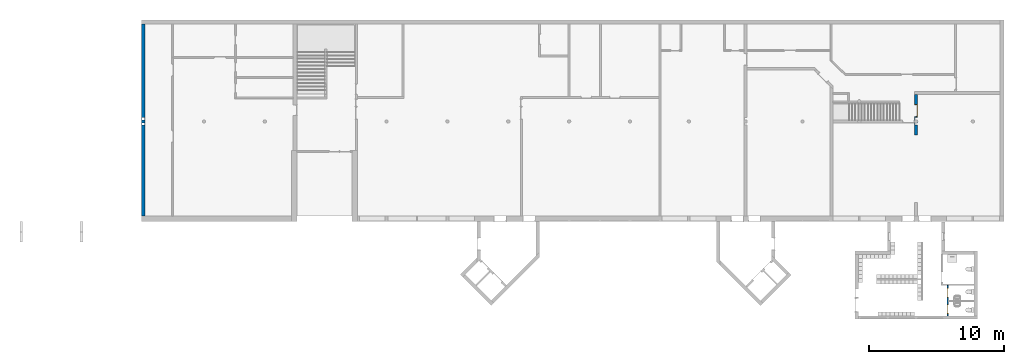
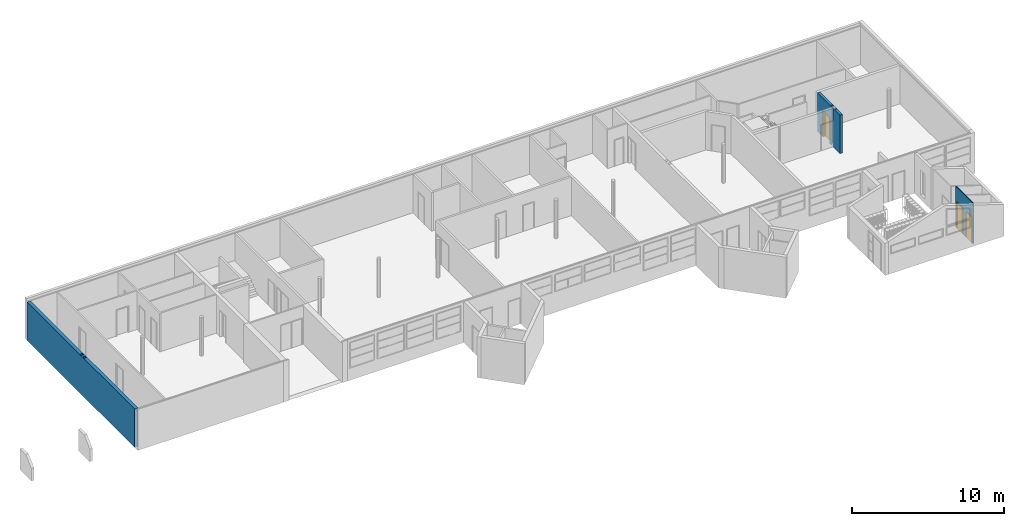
# One storey, part 13 of 25: 3 doors, 3 walls, 3 openings.
"""IFC2X3 building model written with IfcOpenShell, lengths in millimetres."""

from ifc_helpers import new_model, entity, si_unit, converted_unit, derived_unit, money_unit, direction, frame, origin_with_axes, place, context, subcontext, project, spatial, faceted_brep, source, transform, mapped, material, type_object, element, fill, save


model = new_model("IFC2X3")

# Units and contexts
model_context = context("Model", 3, precision=0.01, world=origin_with_axes(), true_north=direction((0.0, 1.0)))
body_context = subcontext(model_context, "Body", "Model", "MODEL_VIEW")
ifc_project = project(units=[si_unit("LENGTHUNIT", "METRE", prefix="MILLI"), si_unit("AREAUNIT", "SQUARE_METRE"), si_unit("VOLUMEUNIT", "CUBIC_METRE"), converted_unit("PLANEANGLEUNIT", "DEGREE", entity("IfcPlaneAngleMeasure", 0.0174532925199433), si_unit("PLANEANGLEUNIT", "RADIAN"), dimensions=[0, 0, 0, 0, 0, 0, 0]), money_unit("USD"), converted_unit("TIMEUNIT", "Year", entity("IfcTimeMeasure", 31557600.0), si_unit("TIMEUNIT", "SECOND"), dimensions=[0, 0, 1, 0, 0, 0, 0]), si_unit("MASSUNIT", "GRAM", prefix="KILO"), si_unit("THERMODYNAMICTEMPERATUREUNIT", "DEGREE_CELSIUS"), si_unit("LUMINOUSINTENSITYUNIT", "LUMEN"), si_unit("ENERGYUNIT", "JOULE", prefix="MEGA"), derived_unit("THERMALCONDUCTANCEUNIT", [(si_unit("POWERUNIT", "WATT"), 1), (si_unit("LENGTHUNIT", "METRE"), -1), (si_unit("THERMODYNAMICTEMPERATUREUNIT", "KELVIN"), -1)]), derived_unit("SPECIFICHEATCAPACITYUNIT", [(si_unit("ENERGYUNIT", "JOULE"), 1), (si_unit("MASSUNIT", "GRAM", prefix="KILO"), -1), (si_unit("THERMODYNAMICTEMPERATUREUNIT", "KELVIN"), -1)]), derived_unit("MASSDENSITYUNIT", [(si_unit("MASSUNIT", "GRAM", prefix="KILO"), 1), (si_unit("VOLUMEUNIT", "CUBIC_METRE"), -1)])], contexts=[model_context])

# Site, building, storey
site_placement = place(None, origin_with_axes())
site = spatial("IfcSite", under=ifc_project, at=site_placement, Name="Site", CompositionType="ELEMENT")
building_placement = place(site_placement, origin_with_axes())
building = spatial("IfcBuilding", under=site, at=building_placement, Name="Building", CompositionType="ELEMENT")
storey_placement = place(building_placement, origin_with_axes())
storey = spatial("IfcBuildingStorey", under=building, at=storey_placement, Name="U ETG", CompositionType="ELEMENT", Elevation=0.0)

# Wall
ifc_material_1 = material(Name="GENERIC - STRUCTURAL")
wall_type_1 = type_object("IfcWallType", Name="GENERIC - STRUCTURAL 260", PredefinedType="NOTDEFINED")
wall_1_placement = place(storey_placement, frame((9000.000000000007, 21700.0, 0.0), z_axis=(0.0, 0.0, 1.0), x_axis=(0.0, -1.0, 0.0)))
element("IfcWall", 1, at=wall_1_placement, inside=storey, type_object=wall_type_1, material=ifc_material_1, Name="SW - 001", context=body_context, shape_type="Brep", body=[
    faceted_brep([(0.0, -130.0000000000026, 0.0), (0.0, 130.0000000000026, 0.0), (14200.4290708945, 129.999999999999, 0.0), (14200.4290708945, -130.0000000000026, 0.0), (7100.125023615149, -90.00000000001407, 0.0), (7100.125023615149, 89.99999999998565, 0.0), (6920.000000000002, 89.99999999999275, 0.0), (6920.000000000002, -90.00000000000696, 0.0), (7480.125023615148, -90.00000000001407, 0.0), (7480.125023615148, 89.99999999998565, 0.0), (7300.000000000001, 89.99999999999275, 0.0), (7300.000000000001, -90.00000000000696, 0.0), (0.0, -129.999999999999, 3100.0), (0.0, 130.0000000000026, 3100.0), (14200.4290708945, 129.999999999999, 3100.0), (14200.4290708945, -130.0000000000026, 3100.0), (7100.125023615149, -90.00000000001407, 3100.0), (7100.125023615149, 89.99999999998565, 3100.0), (6920.000000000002, 89.99999999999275, 3100.0), (6920.000000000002, -90.00000000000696, 3100.0), (7480.125023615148, -90.00000000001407, 3100.0), (7480.125023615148, 89.99999999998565, 3100.0), (7300.000000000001, 89.99999999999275, 3100.0), (7300.000000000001, -90.00000000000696, 3100.0)], [[[0, 1, 2, 3], [4, 5, 6, 7], [8, 9, 10, 11]], [[1, 0, 12, 13]], [[2, 1, 13, 14]], [[3, 2, 14, 15]], [[0, 3, 15, 12]], [[4, 16, 17, 5]], [[5, 17, 18, 6]], [[6, 18, 19, 7]], [[19, 16, 4, 7]], [[8, 20, 21, 9]], [[9, 21, 22, 10]], [[10, 22, 23, 11]], [[23, 20, 8, 11]], [[12, 15, 14, 13], [17, 16, 19, 18], [21, 20, 23, 22]]]),
])

# Wall, opening, door
ifc_material_2 = material(Name="GENERIC - INTERNAL FILLER")
wall_type_2 = type_object("IfcWallType", Name="GENERIC - INTERNAL FILLER 200", PredefinedType="NOTDEFINED")
wall_2_placement = place(storey_placement, frame((66150.0, 16700.0, 0.0), z_axis=(0.0, 0.0, 1.0), x_axis=(0.0, -1.0, 0.0)))
wall_2 = element("IfcWall", 2, at=wall_2_placement, inside=storey, type_object=wall_type_2, material=ifc_material_2, Name="SW - 001", context=body_context, shape_type="Brep", body=[
    faceted_brep([(2480.125023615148, -90.00000000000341, 0.0), (2480.125023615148, 90.00000000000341, 0.0), (2300.000000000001, 90.00000000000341, 0.0), (2300.000000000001, 74.32184648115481, 0.0), (2297.728935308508, 77.93622523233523, 0.0), (2277.936225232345, 97.72893530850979, 0.0), (2274.321846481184, 99.99999999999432, 0.0), (3199.999999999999, 99.99999999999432, 0.0), (3199.999999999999, -99.99999999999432, 0.0), (2274.321846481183, -99.99999999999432, 0.0), (2277.936225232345, -97.72893530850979, 0.0), (2297.728935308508, -77.93622523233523, 0.0), (2300.000000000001, -74.32184648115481, 0.0), (2300.000000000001, -90.00000000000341, 0.0), (2480.125023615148, -90.00000000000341, 3100.0), (2480.125023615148, 90.00000000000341, 3100.0), (2300.000000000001, 90.00000000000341, 3100.0), (2300.000000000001, 74.32184648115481, 3100.0), (2297.728935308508, 77.93622523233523, 3100.0), (2277.936225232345, 97.72893530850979, 3100.0), (2274.321846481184, 99.99999999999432, 3100.0), (3199.999999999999, 99.99999999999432, 3100.0), (3199.999999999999, -99.99999999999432, 3100.0), (2274.321846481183, -99.99999999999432, 3100.0), (2277.936225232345, -97.72893530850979, 3100.0), (2297.728935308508, -77.93622523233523, 3100.0), (2300.000000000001, -74.32184648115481, 3100.0), (2300.000000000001, -90.00000000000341, 3100.0)], [[[0, 1, 2, 3, 4, 5, 6, 7, 8, 9, 10, 11, 12, 13]], [[0, 14, 15, 1]], [[1, 15, 16, 2]], [[16, 17, 3, 2]], [[3, 17, 18, 4]], [[4, 18, 19, 5]], [[5, 19, 20, 6]], [[7, 6, 20, 21]], [[22, 8, 7, 21]], [[22, 23, 9, 8]], [[9, 23, 24, 10]], [[10, 24, 25, 11]], [[11, 25, 26, 12]], [[13, 12, 26, 27]], [[27, 14, 0, 13]], [[15, 14, 27, 26, 25, 24, 23, 22, 21, 20, 19, 18, 17, 16]]]),
    faceted_brep([(1843.958904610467, 99.99999999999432, 0.0), (1843.958904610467, 99.99999999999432, 2100.0), (943.9589046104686, 99.99999999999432, 2100.0), (943.9589046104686, 99.99999999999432, 0.0), (199.9999999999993, 99.99999999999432, 0.0), (199.9999999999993, 99.99999999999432, 3100.0), (2125.67815351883, 99.99999999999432, 3100.0), (2125.67815351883, 99.99999999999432, 0.0), (1843.958904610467, -99.99999999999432, 0.0), (1843.958904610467, -99.99999999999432, 2100.0), (943.9589046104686, -99.99999999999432, 2100.0), (943.9589046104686, -99.99999999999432, 0.0), (199.9999999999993, -99.99999999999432, 0.0), (199.9999999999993, -99.99999999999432, 3100.0), (2100.125023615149, -74.52082042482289, 3100.0), (2100.125023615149, -90.00000000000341, 3100.0), (1920.000000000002, -90.00000000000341, 3100.0), (1920.000000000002, 90.00000000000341, 3100.0), (2100.125023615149, 90.00000000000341, 3100.0), (2100.125023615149, 74.52082042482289, 3100.0), (2102.271064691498, 77.93622523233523, 3100.0), (2122.063774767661, 97.72893530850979, 3100.0), (2125.678153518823, -99.99999999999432, 3100.0), (2122.063774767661, -97.72893530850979, 3100.0), (2102.271064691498, -77.93622523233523, 3100.0), (2122.063774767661, 97.72893530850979, 0.0), (2102.271064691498, 77.93622523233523, 0.0), (2100.125023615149, 74.52082042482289, 0.0), (2100.125023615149, 90.00000000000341, 0.0), (1920.000000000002, 90.00000000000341, 0.0), (1920.000000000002, -90.00000000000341, 0.0), (2100.125023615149, -90.00000000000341, 0.0), (2100.125023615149, -74.52082042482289, 0.0), (2102.271064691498, -77.93622523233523, 0.0), (2122.063774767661, -97.72893530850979, 0.0), (2125.678153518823, -99.99999999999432, 0.0)], [[[0, 1, 2, 3, 4, 5, 6, 7]], [[1, 0, 8, 9]], [[2, 1, 9, 10]], [[3, 2, 10, 11]], [[3, 11, 12, 4]], [[5, 4, 12, 13]], [[14, 15, 16, 17, 18, 19, 20, 21, 6, 5, 13, 22, 23, 24]], [[7, 6, 21, 25]], [[8, 0, 7, 25, 26, 27, 28, 29, 30, 31, 32, 33, 34, 35]], [[9, 8, 35, 22, 13, 12, 11, 10]], [[15, 14, 32, 31]], [[15, 31, 30, 16]], [[17, 16, 30, 29]], [[18, 17, 29, 28]], [[19, 18, 28, 27]], [[19, 27, 26, 20]], [[21, 20, 26, 25]], [[23, 22, 35, 34]], [[24, 23, 34, 33]], [[32, 14, 24, 33]]]),
])
opening_1_placement = place(wall_2_placement, frame((1393.958904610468, 0.0, 0.0), z_axis=(0.0, 0.0, 1.0), x_axis=(1.0, 0.0, 0.0)))
opening_1 = element("IfcOpeningElement", 3, at=opening_1_placement, cuts=wall_2, Name="DOO - 002", context=body_context, shape_type="Brep", body=[
    faceted_brep([(-449.9999999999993, 100.9999999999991, 0.0), (-449.9999999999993, 100.9999999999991, 2100.0), (449.9999999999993, 100.9999999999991, 2100.0), (449.9999999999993, 100.9999999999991, 0.0), (-487.0000000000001, 100.9999999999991, 0.0), (-487.0000000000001, 100.9999999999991, 2137.0), (487.0000000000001, 100.9999999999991, 2137.0), (487.0000000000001, 100.9999999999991, 0.0), (-449.9999999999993, 100.0000000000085, 0.0), (449.9999999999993, 100.0000000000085, 0.0), (449.9999999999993, -99.99999999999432, 0.0), (449.9999999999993, -100.9999999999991, 0.0), (-449.9999999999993, -100.9999999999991, 0.0), (-449.9999999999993, -99.99999999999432, 0.0), (-487.0000000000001, 100.0000000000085, 0.0), (-487.0000000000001, 100.0000000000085, 2137.0), (487.0000000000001, 100.0000000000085, 2137.0), (487.0000000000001, 100.0000000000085, 0.0), (449.9999999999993, 100.0000000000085, 2100.0), (449.9999999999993, -99.99999999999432, 2100.0), (487.0000000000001, -99.99999999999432, 0.0), (487.0000000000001, -100.9999999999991, 0.0), (487.0000000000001, -100.9999999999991, 2137.0), (-487.0000000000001, -100.9999999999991, 2137.0), (-487.0000000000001, -100.9999999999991, 0.0), (-487.0000000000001, -99.99999999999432, 0.0), (-449.9999999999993, 100.0000000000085, 2100.0), (-449.9999999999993, -99.99999999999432, 2100.0), (-487.0000000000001, -99.99999999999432, 2137.0), (487.0000000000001, -99.99999999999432, 2137.0)], [[[0, 1, 2, 3]], [[2, 1, 0, 4, 5, 6, 7, 3]], [[8, 0, 3, 9, 10, 11, 12, 13]], [[0, 8, 14, 4]], [[14, 15, 5, 4]], [[15, 16, 6, 5]], [[16, 17, 7, 6]], [[9, 3, 7, 17]], [[9, 18, 19, 10]], [[11, 10, 20, 21]], [[12, 11, 21, 22, 23, 24]], [[13, 12, 24, 25]], [[26, 8, 13, 27]], [[8, 26, 18, 9, 17, 16, 15, 14]], [[18, 26, 27, 19]], [[19, 27, 13, 25, 28, 29, 20, 10]], [[20, 29, 22, 21]], [[29, 28, 23, 22]], [[28, 25, 24, 23]]]),
])
door_style_1 = type_object("IfcDoorStyle", Name="Dør", ConstructionType="NOTDEFINED", OperationType="SINGLE_SWING_LEFT", ParameterTakesPrecedence=False, Sizeable=False)
shared_shape_1 = source(origin_with_axes(), body_context, "Body", "Brep", [
    faceted_brep([(450.0, -115.0, 0.0), (450.0, -200.0, 0.0), (425.0, -200.0, 0.0), (425.0, -115.0, 0.0), (450.0, -115.0000000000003, 2100.0), (450.0, -200.0000000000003, 2100.0), (425.0, -200.0000000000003, 2075.0), (425.0, -115.0000000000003, 2075.0)], [[[0, 1, 2, 3]], [[4, 5, 1, 0]], [[1, 5, 6, 2]], [[3, 2, 6, 7]], [[0, 3, 7, 4]], [[7, 6, 5, 4]]]),
    faceted_brep([(-450.0, -115.0000000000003, 2100.0), (-450.0, -200.0000000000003, 2100.0), (-425.0, -200.0000000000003, 2075.0), (-425.0, -115.0000000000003, 2075.0), (-450.0, -115.0, 0.0), (-450.0, -200.0, 0.0), (-425.0, -200.0, 0.0), (-425.0, -115.0, 0.0)], [[[0, 1, 2, 3]], [[4, 5, 1, 0]], [[1, 5, 6, 2]], [[3, 2, 6, 7]], [[0, 3, 7, 4]], [[7, 6, 5, 4]]]),
    faceted_brep([(425.0, -115.0000000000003, 2075.0), (425.0, -200.0000000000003, 2075.0), (-425.0, -200.0000000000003, 2075.0), (-425.0, -115.0000000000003, 2075.0), (450.0, -115.0000000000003, 2100.0), (450.0, -200.0000000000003, 2100.0), (-450.0, -200.0000000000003, 2100.0), (-450.0, -115.0000000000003, 2100.0)], [[[0, 1, 2, 3]], [[4, 5, 1, 0]], [[1, 5, 6, 2]], [[3, 2, 6, 7]], [[0, 3, 7, 4]], [[7, 6, 5, 4]]]),
    faceted_brep([(487.0, -219.0, 0.0), (437.0, -219.0, 0.0), (437.0, -200.0, 0.0), (487.0, -200.0, 0.0), (487.0, -219.0000000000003, 2137.0), (437.0, -219.0000000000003, 2087.0), (437.0, -200.0000000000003, 2087.0), (487.0, -200.0000000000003, 2137.0)], [[[0, 1, 2, 3]], [[0, 4, 5, 1]], [[1, 5, 6, 2]], [[3, 2, 6, 7]], [[4, 0, 3, 7]], [[5, 4, 7, 6]]]),
    faceted_brep([(-487.0, -219.0000000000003, 2137.0), (-437.0, -219.0000000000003, 2087.0), (-437.0, -200.0000000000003, 2087.0), (-487.0, -200.0000000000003, 2137.0), (-487.0, -219.0, 0.0), (-437.0, -219.0, 0.0), (-437.0, -200.0, 0.0), (-487.0, -200.0, 0.0)], [[[0, 1, 2, 3]], [[0, 4, 5, 1]], [[1, 5, 6, 2]], [[3, 2, 6, 7]], [[4, 0, 3, 7]], [[5, 4, 7, 6]]]),
    faceted_brep([(487.0, -219.0000000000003, 2137.0), (437.0, -219.0000000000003, 2087.0), (437.0, -200.0000000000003, 2087.0), (487.0, -200.0000000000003, 2137.0), (-487.0, -219.0000000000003, 2137.0), (-437.0, -219.0000000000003, 2087.0), (-437.0, -200.0000000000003, 2087.0), (-487.0, -200.0000000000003, 2137.0)], [[[0, 1, 2, 3]], [[0, 4, 5, 1]], [[1, 5, 6, 2]], [[3, 2, 6, 7]], [[4, 0, 3, 7]], [[5, 4, 7, 6]]]),
    faceted_brep([(487.0, 19.0, 0.0), (487.0, 0.0, 0.0), (437.0, 0.0, 0.0), (437.0, 19.0, 0.0), (487.0, 18.99999999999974, 2137.0), (487.0, 0.0, 2137.0), (437.0, 0.0, 2087.0), (437.0, 18.99999999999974, 2087.0)], [[[0, 1, 2, 3]], [[4, 5, 1, 0]], [[1, 5, 6, 2]], [[3, 2, 6, 7]], [[0, 3, 7, 4]], [[7, 6, 5, 4]]]),
    faceted_brep([(-487.0, 18.99999999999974, 2137.0), (-487.0, 0.0, 2137.0), (-437.0, 0.0, 2087.0), (-437.0, 18.99999999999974, 2087.0), (-487.0, 19.0, 0.0), (-487.0, 0.0, 0.0), (-437.0, 0.0, 0.0), (-437.0, 19.0, 0.0)], [[[0, 1, 2, 3]], [[4, 5, 1, 0]], [[1, 5, 6, 2]], [[3, 2, 6, 7]], [[0, 3, 7, 4]], [[7, 6, 5, 4]]]),
    faceted_brep([(487.0, 18.99999999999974, 2137.0), (487.0, 0.0, 2137.0), (437.0, 0.0, 2087.0), (437.0, 18.99999999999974, 2087.0), (-487.0, 18.99999999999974, 2137.0), (-487.0, 0.0, 2137.0), (-437.0, 0.0, 2087.0), (-437.0, 18.99999999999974, 2087.0)], [[[0, 1, 2, 3]], [[4, 5, 1, 0]], [[1, 5, 6, 2]], [[3, 2, 6, 7]], [[0, 3, 7, 4]], [[7, 6, 5, 4]]]),
    faceted_brep([(450.0, 0.0, 0.0), (450.0, -115.0, 0.0), (410.0000000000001, -115.0, 0.0), (410.0000000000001, 0.0, 0.0), (450.0, 0.0, 2060.0), (450.0, -115.0, 2060.0), (410.0000000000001, -115.0, 2060.0), (410.0000000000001, 0.0, 2060.0)], [[[0, 1, 2, 3]], [[4, 5, 1, 0]], [[1, 5, 6, 2]], [[3, 2, 6, 7]], [[0, 3, 7, 4]], [[7, 6, 5, 4]]]),
    faceted_brep([(-450.0, 0.0, 0.0), (-450.0, -115.0, 0.0), (-450.0, -115.0, 2060.0), (-450.0, 0.0, 2060.0), (-410.0000000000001, 0.0, 0.0), (-410.0000000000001, -115.0, 0.0), (-410.0000000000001, -115.0, 2060.0), (-410.0000000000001, 0.0, 2060.0)], [[[0, 1, 2, 3]], [[4, 5, 1, 0]], [[1, 5, 6, 2]], [[3, 2, 6, 7]], [[0, 3, 7, 4]], [[7, 6, 5, 4]]]),
    faceted_brep([(450.0, 0.0, 2100.0), (450.0, -115.0, 2100.0), (450.0, -115.0, 2060.0), (450.0, 0.0, 2060.0), (-450.0, 0.0, 2100.0), (-450.0, -115.0, 2100.0), (-450.0, -115.0, 2060.0), (-410.0000000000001, -115.0, 2060.0), (410.0000000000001, -115.0, 2060.0), (410.0000000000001, 0.0, 2060.0), (-410.0000000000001, 0.0, 2060.0), (-450.0, 0.0, 2060.0)], [[[0, 1, 2, 3]], [[4, 5, 1, 0]], [[1, 5, 6, 7, 8, 2]], [[3, 2, 8, 9]], [[0, 3, 9, 10, 11, 4]], [[11, 6, 5, 4]], [[10, 7, 6, 11]], [[9, 8, 7, 10]]]),
    faceted_brep([(-409.9999999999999, 0.0, 0.0), (410.0000000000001, 0.0, 0.0), (410.0000000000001, -40.0, 0.0), (-409.9999999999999, -40.0, 0.0), (-409.9999999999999, 0.0, 2060.0), (410.0000000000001, 0.0, 2060.0), (410.0000000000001, -40.00000000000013, 2060.0), (-409.9999999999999, -40.00000000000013, 2060.0)], [[[0, 1, 2, 3]], [[0, 4, 5, 1]], [[1, 5, 6, 2]], [[3, 2, 6, 7]], [[4, 0, 3, 7]], [[5, 4, 7, 6]]]),
])
door_1_placement = place(opening_1_placement, frame((-449.9999999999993, 0.0, 0.0), z_axis=(0.0, 0.0, 1.0), x_axis=(1.0, 0.0, 0.0)))
door_1 = element("IfcDoor", 4, at=door_1_placement, inside=storey, type_object=door_style_1, Name="DOO - 002", ObjectType="DOOR", OverallHeight=2100.0, OverallWidth=900.0, context=body_context, shape_type="MappedRepresentation", body=[
    mapped(shared_shape_1, transform((449.9999999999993, 100.0000000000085, 0.0))),
])
fill(opening_1, door_1)

# Wall, openings, doors
wall_type_3 = type_object("IfcWallType", Name="GENERIC - INTERNAL FILLER 100", PredefinedType="NOTDEFINED")
wall_3_placement = place(storey_placement, frame((68489.61738814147, 2479.865232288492, 0.0), z_axis=(0.0, 0.0, 1.0), x_axis=(-4.237555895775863e-05, -0.999999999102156, 0.0)))
wall_3 = element("IfcWall", 5, at=wall_3_placement, inside=storey, type_object=wall_type_3, material=ifc_material_2, Name="SW - 001", context=body_context, shape_type="Brep", body=[
    faceted_brep([(999.9999691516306, 50.00000000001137, 0.0), (999.9999691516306, 50.00000000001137, 2100.0), (299.9999691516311, 50.00000000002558, 2100.0), (299.9999691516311, 50.00000000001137, 0.0), (100.0000000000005, 50.00000000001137, 0.0), (100.0000000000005, 50.00000000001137, 3256.029686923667), (2350.138291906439, 50.00000000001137, 3256.060668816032), (2350.138291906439, 50.00000000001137, 0.0), (2200.138295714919, 50.00000000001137, 0.0), (2200.138295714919, 49.99999999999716, 2100.0), (1500.138295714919, 49.99999999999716, 2100.0), (1500.138295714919, 50.00000000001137, 0.0), (999.9999691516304, -49.99999999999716, 0.0), (999.9999691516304, -49.99999999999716, 2100.0), (299.9999691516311, -49.99999999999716, 2100.0), (299.9999691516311, -50.00000000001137, 0.0), (100.0000000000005, -49.99999999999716, 0.0), (100.0000000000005, -49.99999999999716, 3288.522199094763), (2350.138291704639, -49.99999999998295, 3288.553180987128), (2350.138291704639, -49.99999999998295, 0.0), (2200.138295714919, -49.99999999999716, 0.0), (2200.138295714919, -49.99999999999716, 2100.0), (1500.138295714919, -49.99999999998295, 2100.0), (1500.138295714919, -49.99999999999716, 0.0)], [[[0, 1, 2, 3, 4, 5, 6, 7, 8, 9, 10, 11]], [[1, 0, 12, 13]], [[2, 1, 13, 14]], [[3, 2, 14, 15]], [[3, 15, 16, 4]], [[5, 4, 16, 17]], [[5, 17, 18, 6]], [[18, 19, 7, 6]], [[8, 7, 19, 20]], [[8, 20, 21, 9]], [[9, 21, 22, 10]], [[10, 22, 23, 11]], [[12, 0, 11, 23]], [[13, 12, 23, 22, 21, 20, 19, 18, 17, 16, 15, 14]]]),
])
opening_2_placement = place(wall_3_placement, frame((1850.138295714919, 0.0, 0.0), z_axis=(0.0, 0.0, 1.0), x_axis=(1.0, 0.0, 0.0)))
opening_2 = element("IfcOpeningElement", 6, at=opening_2_placement, cuts=wall_3, Name="DOO - 002", context=body_context, shape_type="Brep", body=[
    faceted_brep([(-349.9999999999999, -49.99999999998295, 0.0), (-350.0, -49.99999999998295, 2100.0), (-350.0, 50.00000000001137, 2100.0), (-350.0000000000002, 50.00000000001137, 0.0), (350.0, -49.99999999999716, 2100.0), (-387.0, -49.99999999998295, 0.0), (-387.0, -49.99999999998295, 2137.0), (387.0, -49.99999999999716, 2137.0), (387.0, -49.99999999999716, 0.0), (350.0, -49.99999999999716, 0.0), (350.0000000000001, 50.00000000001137, 2100.0), (350.0000000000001, 50.00000000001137, 0.0), (387.0, 50.00000000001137, 0.0), (387.0, 50.00000000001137, 2137.0), (-386.9999999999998, 50.00000000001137, 2137.0), (-386.9999999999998, 50.00000000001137, 0.0), (-350.0, -51.10488536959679, 0.0), (-349.9999999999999, 51.10488536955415, 0.0), (350.0000000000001, 51.10488536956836, 0.0), (350.0000000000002, -51.104885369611, 0.0), (-386.9999999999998, -51.10488536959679, 0.0), (-386.9999999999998, -51.10488536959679, 2137.0), (386.9999999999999, -51.104885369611, 2137.0), (386.9999999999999, -51.104885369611, 0.0), (387.0, 51.10488536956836, 0.0), (387.0, 51.10488536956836, 2137.0), (-386.9999999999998, 51.10488536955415, 2137.0), (-386.9999999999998, 51.10488536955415, 0.0), (-350.0, -51.10488536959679, 2100.0), (350.0000000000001, -51.104885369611, 2100.0)], [[[0, 1, 2, 3]], [[4, 1, 0, 5, 6, 7, 8, 9]], [[1, 4, 10, 2]], [[3, 2, 10, 11, 12, 13, 14, 15]], [[16, 0, 3, 17, 18, 11, 9, 19]], [[0, 16, 20, 5]], [[6, 5, 20, 21]], [[7, 6, 21, 22]], [[8, 7, 22, 23]], [[19, 9, 8, 23]], [[4, 9, 11, 10]], [[11, 18, 24, 12]], [[13, 12, 24, 25]], [[14, 13, 25, 26]], [[15, 14, 26, 27]], [[17, 3, 15, 27]], [[17, 27, 26, 25, 24, 18]], [[28, 16, 19, 29]], [[16, 28, 29, 19, 23, 22, 21, 20]]]),
])
opening_3_placement = place(wall_3_placement, frame((649.9999691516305, 0.0, 0.0), z_axis=(0.0, 0.0, 1.0), x_axis=(1.0, 0.0, 0.0)))
opening_3 = element("IfcOpeningElement", 7, at=opening_3_placement, cuts=wall_3, Name="DOO - 002", context=body_context, shape_type="Brep", body=[
    faceted_brep([(-349.999999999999, -49.99999999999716, 0.0), (-349.9999999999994, -49.99999999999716, 2100.0), (-349.999999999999, 50.00000000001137, 2100.0), (-349.9999999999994, 50.00000000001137, 0.0), (350.0000000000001, -49.99999999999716, 2100.0), (-386.9999999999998, -49.99999999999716, 0.0), (-386.9999999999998, -49.99999999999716, 2137.0), (387.0000000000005, -49.99999999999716, 2137.0), (387.0000000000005, -49.99999999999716, 0.0), (350.0000000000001, -49.99999999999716, 0.0), (350.0000000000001, 50.00000000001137, 2100.0), (350.0000000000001, 50.00000000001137, 0.0), (387.0000000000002, 50.00000000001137, 0.0), (387.0000000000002, 50.00000000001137, 2137.0), (-386.9999999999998, 50.00000000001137, 2137.0), (-386.9999999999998, 50.00000000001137, 0.0), (-349.9999999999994, -51.10488536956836, 0.0), (-349.9999999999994, 51.10488536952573, 0.0), (350.0000000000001, 51.10488536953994, 0.0), (349.9999999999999, -51.10488536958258, 0.0), (-386.9999999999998, -51.10488536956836, 0.0), (-386.9999999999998, -51.10488536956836, 2137.0), (387.0000000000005, -51.10488536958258, 2137.0), (387.0000000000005, -51.10488536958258, 0.0), (387.0000000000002, 51.10488536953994, 0.0), (387.0000000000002, 51.10488536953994, 2137.0), (-386.9999999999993, 51.10488536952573, 2137.0), (-386.9999999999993, 51.10488536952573, 0.0), (-349.9999999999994, -51.10488536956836, 2100.0), (350.0000000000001, -51.10488536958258, 2100.0)], [[[0, 1, 2, 3]], [[4, 1, 0, 5, 6, 7, 8, 9]], [[1, 4, 10, 2]], [[3, 2, 10, 11, 12, 13, 14, 15]], [[16, 0, 3, 17, 18, 11, 9, 19]], [[0, 16, 20, 5]], [[6, 5, 20, 21]], [[7, 6, 21, 22]], [[8, 7, 22, 23]], [[19, 9, 8, 23]], [[4, 9, 11, 10]], [[11, 18, 24, 12]], [[13, 12, 24, 25]], [[14, 13, 25, 26]], [[15, 14, 26, 27]], [[17, 3, 15, 27]], [[17, 27, 26, 25, 24, 18]], [[28, 16, 19, 29]], [[16, 28, 29, 19, 23, 22, 21, 20]]]),
])
door_style_2 = type_object("IfcDoorStyle", Name="Dør", ConstructionType="NOTDEFINED", OperationType="SINGLE_SWING_LEFT", ParameterTakesPrecedence=False, Sizeable=False)
shared_shape_2 = source(origin_with_axes(), body_context, "Body", "Brep", [
    faceted_brep([(386.9999999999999, -119.0, 0.0), (336.9999999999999, -119.0, 0.0), (336.9999999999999, -100.0, 0.0), (386.9999999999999, -100.0, 0.0), (386.9999999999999, -119.0000000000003, 2137.0), (336.9999999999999, -119.0000000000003, 2087.0), (336.9999999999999, -100.0000000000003, 2087.0), (386.9999999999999, -100.0000000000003, 2137.0)], [[[0, 1, 2, 3]], [[0, 4, 5, 1]], [[1, 5, 6, 2]], [[3, 2, 6, 7]], [[4, 0, 3, 7]], [[5, 4, 7, 6]]]),
    faceted_brep([(-386.9999999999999, -119.0000000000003, 2137.0), (-336.9999999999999, -119.0000000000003, 2087.0), (-336.9999999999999, -100.0000000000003, 2087.0), (-386.9999999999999, -100.0000000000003, 2137.0), (-386.9999999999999, -119.0, 0.0), (-336.9999999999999, -119.0, 0.0), (-336.9999999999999, -100.0, 0.0), (-386.9999999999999, -100.0, 0.0)], [[[0, 1, 2, 3]], [[0, 4, 5, 1]], [[1, 5, 6, 2]], [[3, 2, 6, 7]], [[4, 0, 3, 7]], [[5, 4, 7, 6]]]),
    faceted_brep([(386.9999999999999, -119.0000000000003, 2137.0), (336.9999999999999, -119.0000000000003, 2087.0), (336.9999999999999, -100.0000000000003, 2087.0), (386.9999999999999, -100.0000000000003, 2137.0), (-386.9999999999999, -119.0000000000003, 2137.0), (-336.9999999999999, -119.0000000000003, 2087.0), (-336.9999999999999, -100.0000000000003, 2087.0), (-386.9999999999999, -100.0000000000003, 2137.0)], [[[0, 1, 2, 3]], [[0, 4, 5, 1]], [[1, 5, 6, 2]], [[3, 2, 6, 7]], [[4, 0, 3, 7]], [[5, 4, 7, 6]]]),
    faceted_brep([(386.9999999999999, 19.0, 0.0), (386.9999999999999, 0.0, 0.0), (336.9999999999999, 0.0, 0.0), (336.9999999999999, 19.0, 0.0), (386.9999999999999, 18.99999999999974, 2137.0), (386.9999999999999, 0.0, 2137.0), (336.9999999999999, 0.0, 2087.0), (336.9999999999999, 18.99999999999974, 2087.0)], [[[0, 1, 2, 3]], [[4, 5, 1, 0]], [[1, 5, 6, 2]], [[3, 2, 6, 7]], [[0, 3, 7, 4]], [[7, 6, 5, 4]]]),
    faceted_brep([(-386.9999999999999, 18.99999999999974, 2137.0), (-386.9999999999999, 0.0, 2137.0), (-336.9999999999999, 0.0, 2087.0), (-336.9999999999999, 18.99999999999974, 2087.0), (-386.9999999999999, 19.0, 0.0), (-386.9999999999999, 0.0, 0.0), (-336.9999999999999, 0.0, 0.0), (-336.9999999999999, 19.0, 0.0)], [[[0, 1, 2, 3]], [[4, 5, 1, 0]], [[1, 5, 6, 2]], [[3, 2, 6, 7]], [[0, 3, 7, 4]], [[7, 6, 5, 4]]]),
    faceted_brep([(387.0, 18.99999999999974, 2137.0), (387.0, 0.0, 2137.0), (336.9999999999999, 0.0, 2087.0), (336.9999999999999, 18.99999999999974, 2087.0), (-387.0, 18.99999999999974, 2137.0), (-387.0, 0.0, 2137.0), (-336.9999999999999, 0.0, 2087.0), (-336.9999999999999, 18.99999999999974, 2087.0)], [[[0, 1, 2, 3]], [[4, 5, 1, 0]], [[1, 5, 6, 2]], [[3, 2, 6, 7]], [[0, 3, 7, 4]], [[7, 6, 5, 4]]]),
    faceted_brep([(350.0, 0.0, 0.0), (350.0, -115.0, 0.0), (310.0, -115.0, 0.0), (310.0, 0.0, 0.0), (350.0, 0.0, 2060.0), (350.0, -115.0, 2060.0), (310.0, -115.0, 2060.0), (310.0, 0.0, 2060.0)], [[[0, 1, 2, 3]], [[4, 5, 1, 0]], [[1, 5, 6, 2]], [[3, 2, 6, 7]], [[0, 3, 7, 4]], [[7, 6, 5, 4]]]),
    faceted_brep([(-350.0, 0.0, 0.0), (-350.0, -115.0, 0.0), (-350.0, -115.0, 2060.0), (-350.0, 0.0, 2060.0), (-310.0, 0.0, 0.0), (-310.0, -115.0, 0.0), (-310.0, -115.0, 2060.0), (-310.0, 0.0, 2060.0)], [[[0, 1, 2, 3]], [[4, 5, 1, 0]], [[1, 5, 6, 2]], [[3, 2, 6, 7]], [[0, 3, 7, 4]], [[7, 6, 5, 4]]]),
    faceted_brep([(350.0, 0.0, 2100.0), (350.0, -115.0, 2100.0), (350.0, -115.0, 2060.0), (350.0, 0.0, 2060.0), (-350.0, 0.0, 2100.0), (-350.0, -115.0, 2100.0), (-350.0, -115.0, 2060.0), (-310.0, -115.0, 2060.0), (310.0, -115.0, 2060.0), (310.0, 0.0, 2060.0), (-310.0, 0.0, 2060.0), (-350.0, 0.0, 2060.0)], [[[0, 1, 2, 3]], [[4, 5, 1, 0]], [[1, 5, 6, 7, 8, 2]], [[3, 2, 8, 9]], [[0, 3, 9, 10, 11, 4]], [[11, 6, 5, 4]], [[10, 7, 6, 11]], [[9, 8, 7, 10]]]),
    faceted_brep([(-309.9999999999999, 0.0, 0.0), (310.0, 0.0, 0.0), (310.0, -40.0, 0.0), (-309.9999999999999, -40.0, 0.0), (-309.9999999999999, 0.0, 2060.0), (310.0, 0.0, 2060.0), (310.0, -40.00000000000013, 2060.0), (-309.9999999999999, -40.00000000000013, 2060.0)], [[[0, 1, 2, 3]], [[0, 4, 5, 1]], [[1, 5, 6, 2]], [[3, 2, 6, 7]], [[4, 0, 3, 7]], [[5, 4, 7, 6]]]),
])
door_2_placement = place(opening_2_placement, frame((350.0000000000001, 0.0, 0.0), z_axis=(0.0, 0.0, 1.0), x_axis=(-1.0, 0.0, 0.0)))
door_2 = element("IfcDoor", 8, at=door_2_placement, inside=storey, type_object=door_style_2, Name="DOO - 002", ObjectType="DOOR", OverallHeight=2100.0, OverallWidth=700.0, context=body_context, shape_type="MappedRepresentation", body=[
    mapped(shared_shape_2, transform((349.9999999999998, 49.99999999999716, 0.0))),
])
fill(opening_2, door_2)
door_3_placement = place(opening_3_placement, frame((350.0000000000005, 0.0, 0.0), z_axis=(0.0, 0.0, 1.0), x_axis=(-1.0, 0.0, 0.0)))
door_3 = element("IfcDoor", 9, at=door_3_placement, inside=storey, type_object=door_style_2, Name="DOO - 002", ObjectType="DOOR", OverallHeight=2100.0, OverallWidth=700.0, context=body_context, shape_type="MappedRepresentation", body=[
    mapped(shared_shape_2, transform((349.9999999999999, 49.99999999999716, 0.0))),
])
fill(opening_3, door_3)

save(model, "model.ifc")
